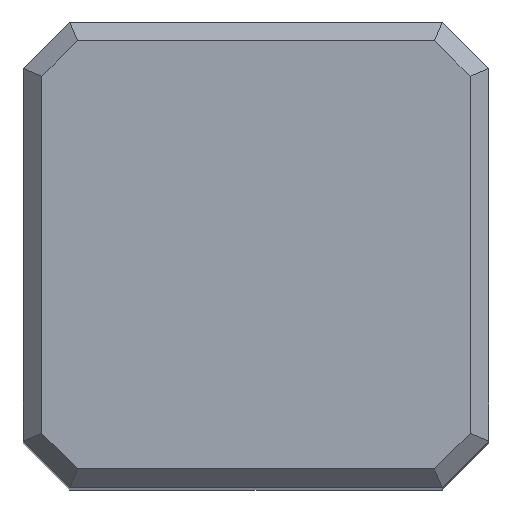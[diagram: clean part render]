
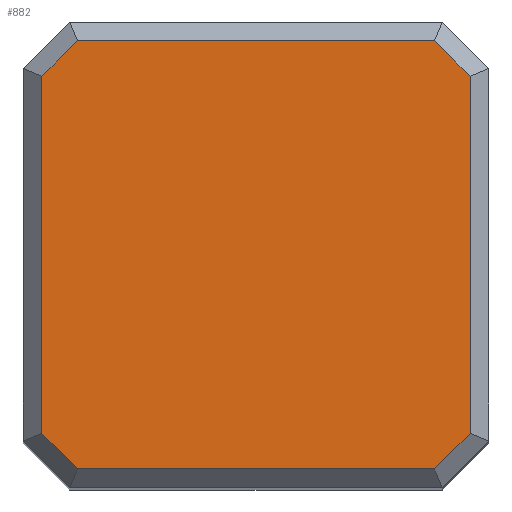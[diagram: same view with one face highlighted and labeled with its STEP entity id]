
A CAD part, top view. The second image highlights one B-rep face of the part: STEP entity #882.
In plain terms, the highlighted planar face has unit normal (0, 0, 1).
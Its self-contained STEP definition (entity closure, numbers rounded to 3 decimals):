
#144 = PLANE('',#145);
#145 = AXIS2_PLACEMENT_3D('',#146,#147,#148);
#146 = CARTESIAN_POINT('',(-4.8,-4.,29.8));
#147 = DIRECTION('',(0.707,0.,-0.707));
#148 = DIRECTION('',(0.,1.,0.));
#176 = PLANE('',#177);
#177 = AXIS2_PLACEMENT_3D('',#178,#179,#180);
#178 = CARTESIAN_POINT('',(-4.859,-3.859,29.8));
#179 = DIRECTION('',(0.5,0.5,-0.707));
#180 = DIRECTION('',(0.707,-0.707,0.));
#327 = VERTEX_POINT('',#328);
#328 = CARTESIAN_POINT('',(-4.6,-3.834,30.));
#351 = VERTEX_POINT('',#352);
#352 = CARTESIAN_POINT('',(-4.6,3.834,30.));
#366 = PLANE('',#367);
#367 = AXIS2_PLACEMENT_3D('',#368,#369,#370);
#368 = CARTESIAN_POINT('',(-4.859,3.859,29.8));
#369 = DIRECTION('',(-0.5,0.5,0.707));
#370 = DIRECTION('',(0.707,0.707,0.));
#378 = EDGE_CURVE('',#327,#351,#379,.T.);
#379 = SURFACE_CURVE('',#380,(#384,#391),.PCURVE_S1.);
#380 = LINE('',#381,#382);
#381 = CARTESIAN_POINT('',(-4.6,-4.,30.));
#382 = VECTOR('',#383,1.);
#383 = DIRECTION('',(-0.,1.,0.));
#384 = PCURVE('',#144,#385);
#385 = DEFINITIONAL_REPRESENTATION('',(#386),#390);
#386 = LINE('',#387,#388);
#387 = CARTESIAN_POINT('',(0.,0.283));
#388 = VECTOR('',#389,1.);
#389 = DIRECTION('',(1.,0.));
#390 = ( GEOMETRIC_REPRESENTATION_CONTEXT(2) 
PARAMETRIC_REPRESENTATION_CONTEXT() REPRESENTATION_CONTEXT('2D SPACE',''
  ) );
#391 = PCURVE('',#392,#397);
#392 = PLANE('',#393);
#393 = AXIS2_PLACEMENT_3D('',#394,#395,#396);
#394 = CARTESIAN_POINT('',(-5.,-5.,30.));
#395 = DIRECTION('',(0.,0.,1.));
#396 = DIRECTION('',(1.,0.,-0.));
#397 = DEFINITIONAL_REPRESENTATION('',(#398),#402);
#398 = LINE('',#399,#400);
#399 = CARTESIAN_POINT('',(0.4,1.));
#400 = VECTOR('',#401,1.);
#401 = DIRECTION('',(0.,1.));
#402 = ( GEOMETRIC_REPRESENTATION_CONTEXT(2) 
PARAMETRIC_REPRESENTATION_CONTEXT() REPRESENTATION_CONTEXT('2D SPACE',''
  ) );
#538 = EDGE_CURVE('',#327,#539,#541,.T.);
#539 = VERTEX_POINT('',#540);
#540 = CARTESIAN_POINT('',(-3.834,-4.6,30.));
#541 = SURFACE_CURVE('',#542,(#546,#553),.PCURVE_S1.);
#542 = LINE('',#543,#544);
#543 = CARTESIAN_POINT('',(-4.717,-3.717,30.));
#544 = VECTOR('',#545,1.);
#545 = DIRECTION('',(0.707,-0.707,0.));
#546 = PCURVE('',#176,#547);
#547 = DEFINITIONAL_REPRESENTATION('',(#548),#552);
#548 = LINE('',#549,#550);
#549 = CARTESIAN_POINT('',(0.,-0.283));
#550 = VECTOR('',#551,1.);
#551 = DIRECTION('',(1.,0.));
#552 = ( GEOMETRIC_REPRESENTATION_CONTEXT(2) 
PARAMETRIC_REPRESENTATION_CONTEXT() REPRESENTATION_CONTEXT('2D SPACE',''
  ) );
#553 = PCURVE('',#392,#554);
#554 = DEFINITIONAL_REPRESENTATION('',(#555),#559);
#555 = LINE('',#556,#557);
#556 = CARTESIAN_POINT('',(0.283,1.283));
#557 = VECTOR('',#558,1.);
#558 = DIRECTION('',(0.707,-0.707));
#559 = ( GEOMETRIC_REPRESENTATION_CONTEXT(2) 
PARAMETRIC_REPRESENTATION_CONTEXT() REPRESENTATION_CONTEXT('2D SPACE',''
  ) );
#575 = PLANE('',#576);
#576 = AXIS2_PLACEMENT_3D('',#577,#578,#579);
#577 = CARTESIAN_POINT('',(-4.,-4.8,29.8));
#578 = DIRECTION('',(0.,0.707,-0.707));
#579 = DIRECTION('',(1.,-0.,0.));
#882 = ADVANCED_FACE('',(#883),#392,.T.);
#883 = FACE_BOUND('',#884,.T.);
#884 = EDGE_LOOP('',(#885,#886,#887,#910,#938,#966,#994,#1022));
#885 = ORIENTED_EDGE('',*,*,#378,.F.);
#886 = ORIENTED_EDGE('',*,*,#538,.T.);
#887 = ORIENTED_EDGE('',*,*,#888,.T.);
#888 = EDGE_CURVE('',#539,#889,#891,.T.);
#889 = VERTEX_POINT('',#890);
#890 = CARTESIAN_POINT('',(3.834,-4.6,30.));
#891 = SURFACE_CURVE('',#892,(#896,#903),.PCURVE_S1.);
#892 = LINE('',#893,#894);
#893 = CARTESIAN_POINT('',(-4.,-4.6,30.));
#894 = VECTOR('',#895,1.);
#895 = DIRECTION('',(1.,0.,-0.));
#896 = PCURVE('',#392,#897);
#897 = DEFINITIONAL_REPRESENTATION('',(#898),#902);
#898 = LINE('',#899,#900);
#899 = CARTESIAN_POINT('',(1.,0.4));
#900 = VECTOR('',#901,1.);
#901 = DIRECTION('',(1.,0.));
#902 = ( GEOMETRIC_REPRESENTATION_CONTEXT(2) 
PARAMETRIC_REPRESENTATION_CONTEXT() REPRESENTATION_CONTEXT('2D SPACE',''
  ) );
#903 = PCURVE('',#575,#904);
#904 = DEFINITIONAL_REPRESENTATION('',(#905),#909);
#905 = LINE('',#906,#907);
#906 = CARTESIAN_POINT('',(0.,-0.283));
#907 = VECTOR('',#908,1.);
#908 = DIRECTION('',(1.,0.));
#909 = ( GEOMETRIC_REPRESENTATION_CONTEXT(2) 
PARAMETRIC_REPRESENTATION_CONTEXT() REPRESENTATION_CONTEXT('2D SPACE',''
  ) );
#910 = ORIENTED_EDGE('',*,*,#911,.F.);
#911 = EDGE_CURVE('',#912,#889,#914,.T.);
#912 = VERTEX_POINT('',#913);
#913 = CARTESIAN_POINT('',(4.6,-3.834,30.));
#914 = SURFACE_CURVE('',#915,(#919,#926),.PCURVE_S1.);
#915 = LINE('',#916,#917);
#916 = CARTESIAN_POINT('',(4.717,-3.717,30.));
#917 = VECTOR('',#918,1.);
#918 = DIRECTION('',(-0.707,-0.707,0.));
#919 = PCURVE('',#392,#920);
#920 = DEFINITIONAL_REPRESENTATION('',(#921),#925);
#921 = LINE('',#922,#923);
#922 = CARTESIAN_POINT('',(9.717,1.283));
#923 = VECTOR('',#924,1.);
#924 = DIRECTION('',(-0.707,-0.707));
#925 = ( GEOMETRIC_REPRESENTATION_CONTEXT(2) 
PARAMETRIC_REPRESENTATION_CONTEXT() REPRESENTATION_CONTEXT('2D SPACE',''
  ) );
#926 = PCURVE('',#927,#932);
#927 = PLANE('',#928);
#928 = AXIS2_PLACEMENT_3D('',#929,#930,#931);
#929 = CARTESIAN_POINT('',(4.859,-3.859,29.8));
#930 = DIRECTION('',(0.5,-0.5,0.707));
#931 = DIRECTION('',(-0.707,-0.707,0.
    ));
#932 = DEFINITIONAL_REPRESENTATION('',(#933),#937);
#933 = LINE('',#934,#935);
#934 = CARTESIAN_POINT('',(0.,-0.283));
#935 = VECTOR('',#936,1.);
#936 = DIRECTION('',(1.,0.));
#937 = ( GEOMETRIC_REPRESENTATION_CONTEXT(2) 
PARAMETRIC_REPRESENTATION_CONTEXT() REPRESENTATION_CONTEXT('2D SPACE',''
  ) );
#938 = ORIENTED_EDGE('',*,*,#939,.T.);
#939 = EDGE_CURVE('',#912,#940,#942,.T.);
#940 = VERTEX_POINT('',#941);
#941 = CARTESIAN_POINT('',(4.6,3.834,30.));
#942 = SURFACE_CURVE('',#943,(#947,#954),.PCURVE_S1.);
#943 = LINE('',#944,#945);
#944 = CARTESIAN_POINT('',(4.6,-4.,30.));
#945 = VECTOR('',#946,1.);
#946 = DIRECTION('',(-0.,1.,0.));
#947 = PCURVE('',#392,#948);
#948 = DEFINITIONAL_REPRESENTATION('',(#949),#953);
#949 = LINE('',#950,#951);
#950 = CARTESIAN_POINT('',(9.6,1.));
#951 = VECTOR('',#952,1.);
#952 = DIRECTION('',(0.,1.));
#953 = ( GEOMETRIC_REPRESENTATION_CONTEXT(2) 
PARAMETRIC_REPRESENTATION_CONTEXT() REPRESENTATION_CONTEXT('2D SPACE',''
  ) );
#954 = PCURVE('',#955,#960);
#955 = PLANE('',#956);
#956 = AXIS2_PLACEMENT_3D('',#957,#958,#959);
#957 = CARTESIAN_POINT('',(4.8,-4.,29.8));
#958 = DIRECTION('',(0.707,0.,0.707));
#959 = DIRECTION('',(0.,-1.,-0.));
#960 = DEFINITIONAL_REPRESENTATION('',(#961),#965);
#961 = LINE('',#962,#963);
#962 = CARTESIAN_POINT('',(-0.,-0.283));
#963 = VECTOR('',#964,1.);
#964 = DIRECTION('',(-1.,0.));
#965 = ( GEOMETRIC_REPRESENTATION_CONTEXT(2) 
PARAMETRIC_REPRESENTATION_CONTEXT() REPRESENTATION_CONTEXT('2D SPACE',''
  ) );
#966 = ORIENTED_EDGE('',*,*,#967,.T.);
#967 = EDGE_CURVE('',#940,#968,#970,.T.);
#968 = VERTEX_POINT('',#969);
#969 = CARTESIAN_POINT('',(3.834,4.6,30.));
#970 = SURFACE_CURVE('',#971,(#975,#982),.PCURVE_S1.);
#971 = LINE('',#972,#973);
#972 = CARTESIAN_POINT('',(4.717,3.717,30.));
#973 = VECTOR('',#974,1.);
#974 = DIRECTION('',(-0.707,0.707,0.));
#975 = PCURVE('',#392,#976);
#976 = DEFINITIONAL_REPRESENTATION('',(#977),#981);
#977 = LINE('',#978,#979);
#978 = CARTESIAN_POINT('',(9.717,8.717));
#979 = VECTOR('',#980,1.);
#980 = DIRECTION('',(-0.707,0.707));
#981 = ( GEOMETRIC_REPRESENTATION_CONTEXT(2) 
PARAMETRIC_REPRESENTATION_CONTEXT() REPRESENTATION_CONTEXT('2D SPACE',''
  ) );
#982 = PCURVE('',#983,#988);
#983 = PLANE('',#984);
#984 = AXIS2_PLACEMENT_3D('',#985,#986,#987);
#985 = CARTESIAN_POINT('',(4.859,3.859,29.8));
#986 = DIRECTION('',(-0.5,-0.5,-0.707));
#987 = DIRECTION('',(-0.707,0.707,0.));
#988 = DEFINITIONAL_REPRESENTATION('',(#989),#993);
#989 = LINE('',#990,#991);
#990 = CARTESIAN_POINT('',(0.,-0.283));
#991 = VECTOR('',#992,1.);
#992 = DIRECTION('',(1.,0.));
#993 = ( GEOMETRIC_REPRESENTATION_CONTEXT(2) 
PARAMETRIC_REPRESENTATION_CONTEXT() REPRESENTATION_CONTEXT('2D SPACE',''
  ) );
#994 = ORIENTED_EDGE('',*,*,#995,.F.);
#995 = EDGE_CURVE('',#996,#968,#998,.T.);
#996 = VERTEX_POINT('',#997);
#997 = CARTESIAN_POINT('',(-3.834,4.6,30.));
#998 = SURFACE_CURVE('',#999,(#1003,#1010),.PCURVE_S1.);
#999 = LINE('',#1000,#1001);
#1000 = CARTESIAN_POINT('',(-4.,4.6,30.));
#1001 = VECTOR('',#1002,1.);
#1002 = DIRECTION('',(1.,0.,-0.));
#1003 = PCURVE('',#392,#1004);
#1004 = DEFINITIONAL_REPRESENTATION('',(#1005),#1009);
#1005 = LINE('',#1006,#1007);
#1006 = CARTESIAN_POINT('',(1.,9.6));
#1007 = VECTOR('',#1008,1.);
#1008 = DIRECTION('',(1.,0.));
#1009 = ( GEOMETRIC_REPRESENTATION_CONTEXT(2) 
PARAMETRIC_REPRESENTATION_CONTEXT() REPRESENTATION_CONTEXT('2D SPACE',''
  ) );
#1010 = PCURVE('',#1011,#1016);
#1011 = PLANE('',#1012);
#1012 = AXIS2_PLACEMENT_3D('',#1013,#1014,#1015);
#1013 = CARTESIAN_POINT('',(-4.,4.8,29.8));
#1014 = DIRECTION('',(0.,0.707,0.707));
#1015 = DIRECTION('',(1.,0.,-0.));
#1016 = DEFINITIONAL_REPRESENTATION('',(#1017),#1021);
#1017 = LINE('',#1018,#1019);
#1018 = CARTESIAN_POINT('',(0.,-0.283));
#1019 = VECTOR('',#1020,1.);
#1020 = DIRECTION('',(1.,0.));
#1021 = ( GEOMETRIC_REPRESENTATION_CONTEXT(2) 
PARAMETRIC_REPRESENTATION_CONTEXT() REPRESENTATION_CONTEXT('2D SPACE',''
  ) );
#1022 = ORIENTED_EDGE('',*,*,#1023,.F.);
#1023 = EDGE_CURVE('',#351,#996,#1024,.T.);
#1024 = SURFACE_CURVE('',#1025,(#1029,#1036),.PCURVE_S1.);
#1025 = LINE('',#1026,#1027);
#1026 = CARTESIAN_POINT('',(-4.717,3.717,30.));
#1027 = VECTOR('',#1028,1.);
#1028 = DIRECTION('',(0.707,0.707,-0.));
#1029 = PCURVE('',#392,#1030);
#1030 = DEFINITIONAL_REPRESENTATION('',(#1031),#1035);
#1031 = LINE('',#1032,#1033);
#1032 = CARTESIAN_POINT('',(0.283,8.717));
#1033 = VECTOR('',#1034,1.);
#1034 = DIRECTION('',(0.707,0.707));
#1035 = ( GEOMETRIC_REPRESENTATION_CONTEXT(2) 
PARAMETRIC_REPRESENTATION_CONTEXT() REPRESENTATION_CONTEXT('2D SPACE',''
  ) );
#1036 = PCURVE('',#366,#1037);
#1037 = DEFINITIONAL_REPRESENTATION('',(#1038),#1042);
#1038 = LINE('',#1039,#1040);
#1039 = CARTESIAN_POINT('',(0.,-0.283));
#1040 = VECTOR('',#1041,1.);
#1041 = DIRECTION('',(1.,0.));
#1042 = ( GEOMETRIC_REPRESENTATION_CONTEXT(2) 
PARAMETRIC_REPRESENTATION_CONTEXT() REPRESENTATION_CONTEXT('2D SPACE',''
  ) );
